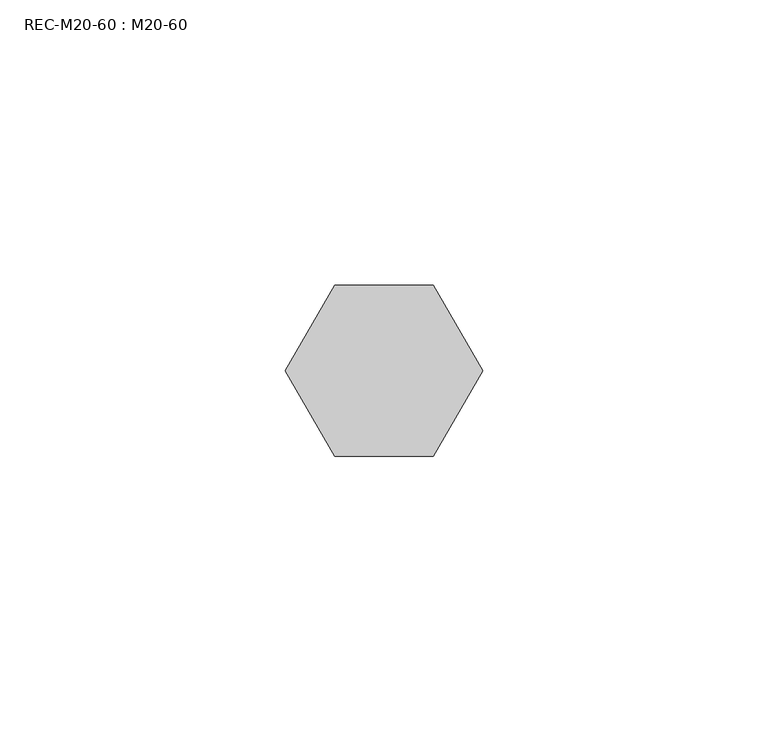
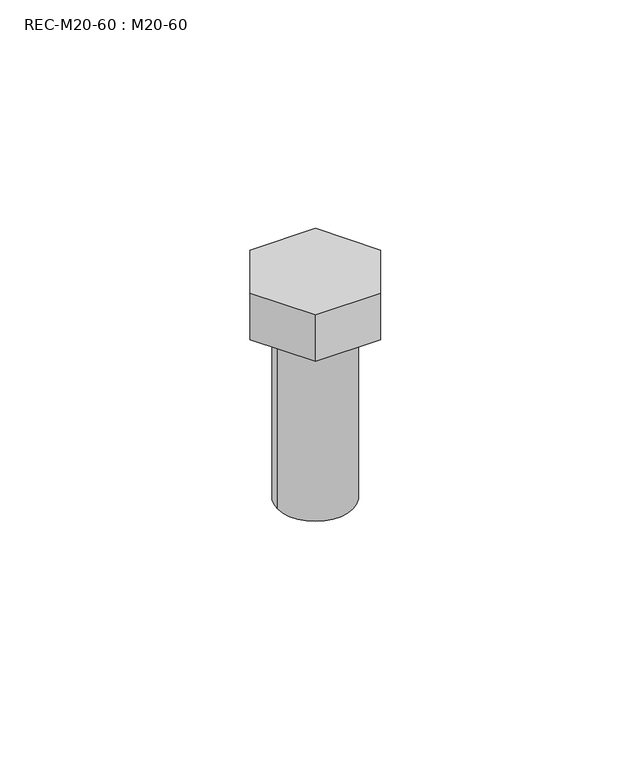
"""IFC4 building model written with IfcOpenShell, lengths in millimetres: fastener geometry, REC-M20-60 : M20-60."""

from ifc_helpers import new_model, si_unit, point, frame, origin, origin_with_axes, origin_2d, place, context, project, spatial, polyline, circle_curve, trimmed, segment, composite_curve, outline, extrude, source, transform, mapped, element, save


def rec_m20_60_m20_60_f3bef540(model_context):
    return source(origin(), model_context, "Body", "SweptSolid", [
        extrude(outline(polyline([(-8.660254, -15.0), (-17.3205081, 0.0), (-8.660254, 15.0), (8.660254, 15.0), (17.3205081, 0.0), (8.660254, -15.0), (-8.660254, -15.0)])), origin_with_axes(), (0.0, 0.0, 1.0), 13.0),
        extrude(outline(composite_curve([segment(trimmed(circle_curve(origin_2d(), 10.0), [point((-10.0, 0.0))], [point((10.0, 0.0))], False, "CARTESIAN"), True, "CONTINUOUS"), segment(trimmed(circle_curve(origin_2d(), 10.0), [point((10.0, 0.0))], [point((-10.0, 0.0))], False, "CARTESIAN"), True, "CONTINUOUS")], self_intersect=False)), frame((0.0, 0.0, -50.0), z_axis=(0.0, 0.0, 1.0), x_axis=(1.0, 0.0, 0.0)), (0.0, 0.0, 1.0), 60.0),
    ])


if __name__ == "__main__":
    model = new_model("IFC4")
    model_context = context("Model", 3, world=origin())
    ifc_project = project(units=[si_unit("LENGTHUNIT", "METRE", prefix="MILLI")], contexts=[model_context])
    site = spatial("IfcSite", under=ifc_project)
    building = spatial("IfcBuilding", under=site)
    placement = place(None, origin())
    rec_m20_60_m20_60_shape = rec_m20_60_m20_60_f3bef540(model_context)
    element("IfcFastener", 1, ObjectType="REC-M20-60 : M20-60", at=placement, inside=building, context=model_context, shape_type="MappedRepresentation", body=[
        mapped(rec_m20_60_m20_60_shape, transform((0.0, 0.0, 0.0), x_axis=(1.0, 0.0, 0.0), y_axis=(0.0, 1.0, 0.0), z_axis=(0.0, 0.0, 1.0))),
    ])
    save(model, "model.ifc")
